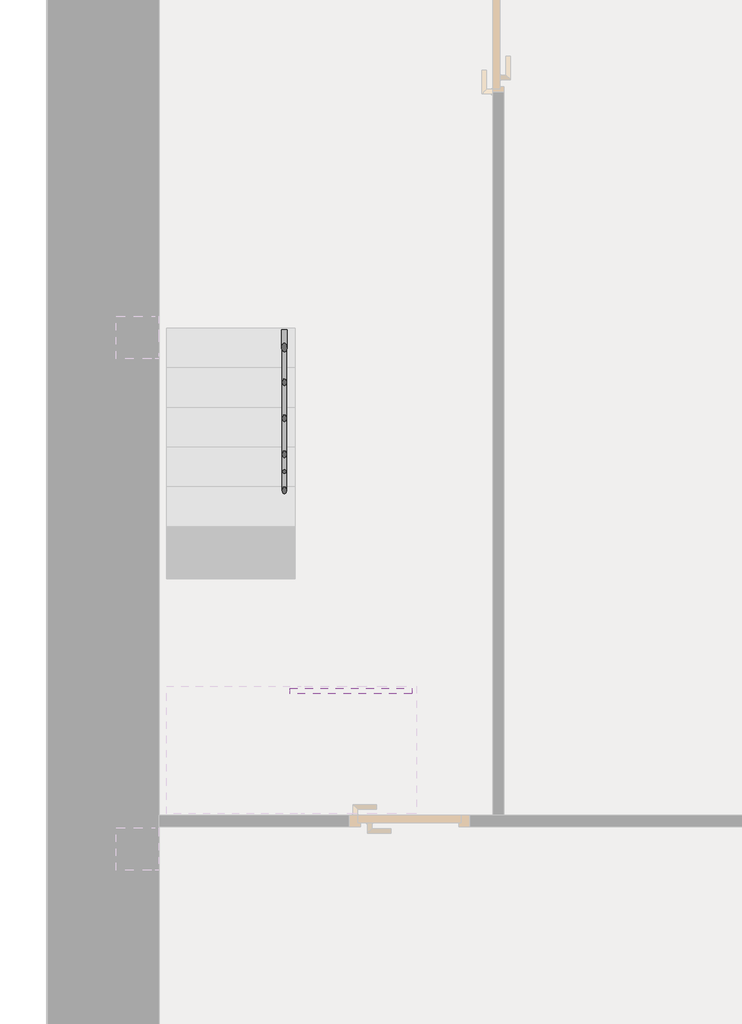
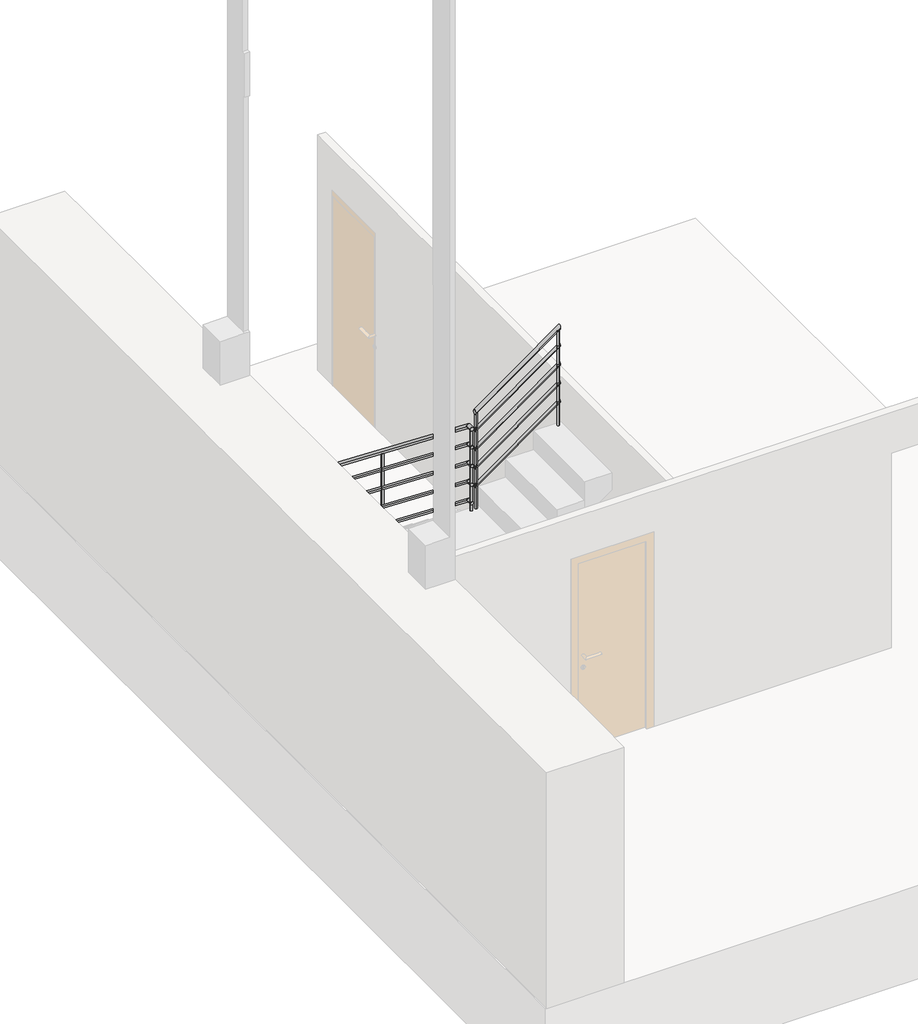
# One storey, part 2 of 2: 2 railings.
"""IFC4 building model written with IfcOpenShell, lengths in millimetres."""

from ifc_helpers import new_model, si_unit, point, frame, frame_2d, origin, place, context, project, spatial, circle_curve, ellipse_curve, trimmed, segment, composite_curve, outline, extrude, element, save
from ifc_brep_helpers import plane_surface, cylinder_surface, advanced_brep

model = new_model("IFC4")

# Units and contexts
model_context = context("Model", 3, world=origin())
ifc_project = project(units=[si_unit("LENGTHUNIT", "METRE", prefix="MILLI")], contexts=[model_context])

# Site, building, storey
site = spatial("IfcSite", under=ifc_project)
building = spatial("IfcBuilding", under=site)
storey = spatial("IfcBuildingStorey", under=building, Name="SÓTANO", Elevation=1000.0)

# Railings
placement = place(None, origin())
element("IfcRailing", 1, ObjectType="Tubería 900 mm", at=placement, inside=storey, context=model_context, shape_type="SolidModel", body=[
    advanced_brep(
    [(-6041.3125034, -9317.868546, 2104.1407496), (-6001.3125034, -9317.868546, 2104.1407496), (-6041.3125034, -11829.7918828, 4080.0), (-6001.3125034, -11829.7918828, 4080.0), (-6041.3125034, -11887.0337685, 4080.0), (-6001.3125034, -11887.0337685, 4080.0)],
    [
        (0, 1, ellipse_curve(frame((-6021.3125034, -9317.868546, 2104.1407496), z_axis=(0.0, 1.0, 0.0), x_axis=(0.0, 0.0, -1.0)), 25.4458425, 20.0)),
        (1, 0, ellipse_curve(frame((-6021.3125034, -9317.868546, 2104.1407496), z_axis=(0.0, 1.0, 0.0), x_axis=(0.0, 0.0, -1.0)), 25.4458425, 20.0)),
        (0, 2),
        (2, 3, ellipse_curve(frame((-6021.3125034, -11829.7918828, 4080.0), z_axis=(0.0, 0.9449822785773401, -0.32712152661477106), x_axis=(0.0, -0.32712152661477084, -0.9449822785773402)), 21.1644181, 20.0)),
        (3, 1),
        (3, 2, ellipse_curve(frame((-6021.3125034, -11829.7918828, 4080.0), z_axis=(0.0, 0.9449822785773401, -0.32712152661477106), x_axis=(0.0, -0.32712152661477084, -0.9449822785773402)), 21.1644181, 20.0)),
        (4, 5, circle_curve(frame((-6021.3125034, -11887.0337685, 4080.0), z_axis=(0.0, -1.0, 0.0), x_axis=(1.0, 0.0, 0.0)), 20.0)),
        (5, 4, circle_curve(frame((-6021.3125034, -11887.0337685, 4080.0), z_axis=(0.0, -1.0, 0.0), x_axis=(1.0, 0.0, 0.0)), 20.0)),
        (2, 4),
        (5, 3),
    ],
    [
        plane_surface(frame((-6021.3125034, -9317.868546, 2129.5865922), z_axis=(0.0, 1.0, 0.0), x_axis=(0.0, 0.0, -1.0))),
        cylinder_surface(frame((-6021.3125034, -9330.2335079, 2113.8669319), z_axis=(0.0, 0.7859830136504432, -0.6182480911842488), x_axis=(1.0, 0.0, 0.0)), 20.0),
        plane_surface(frame((-6021.3125034, -11887.0337685, 4100.0), z_axis=(0.0, -1.0, 0.0), x_axis=(0.0, 0.0, -1.0))),
        cylinder_surface(frame((-6021.3125034, -11822.868546, 4080.0), z_axis=(0.0, 1.0, 0.0), x_axis=(1.0, 0.0, 0.0)), 20.0),
    ],
    [
        (0, [[1, 2]]),
        (1, [[-1, 3, 4, 5]]),
        (1, [[-2, -5, 6, -3]]),
        (2, [[7, 8]]),
        (3, [[-4, 9, -8, 10]]),
        (3, [[-6, -10, -7, -9]]),
    ],
),
    advanced_brep(
    [(-6006.3125034, -9317.868546, 1910.5022103), (-6036.3125034, -9317.868546, 1910.5022103), (-6006.3125034, -11828.0610486, 3885.0), (-6036.3125034, -11828.0610486, 3885.0), (-6006.3125034, -11887.0337685, 3885.0), (-6036.3125034, -11887.0337685, 3885.0)],
    [
        (0, 1, ellipse_curve(frame((-6021.3125034, -9317.868546, 1910.5022103), z_axis=(0.0, 1.0, 0.0), x_axis=(0.0, 0.0, -1.0)), 19.0843819, 15.0)),
        (1, 0, ellipse_curve(frame((-6021.3125034, -9317.868546, 1910.5022103), z_axis=(0.0, 1.0, 0.0), x_axis=(0.0, 0.0, -1.0)), 19.0843819, 15.0)),
        (0, 2),
        (2, 3, ellipse_curve(frame((-6021.3125034, -11828.0610486, 3885.0), z_axis=(0.0, 0.9449822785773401, -0.32712152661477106), x_axis=(0.0, -0.32712152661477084, -0.9449822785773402)), 15.8733135, 15.0)),
        (3, 1),
        (3, 2, ellipse_curve(frame((-6021.3125034, -11828.0610486, 3885.0), z_axis=(0.0, 0.9449822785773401, -0.32712152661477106), x_axis=(0.0, -0.32712152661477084, -0.9449822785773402)), 15.8733135, 15.0)),
        (4, 5, circle_curve(frame((-6021.3125034, -11887.0337685, 3885.0), z_axis=(0.0, -1.0, 0.0), x_axis=(-1.0, 0.0, 0.0)), 15.0)),
        (5, 4, circle_curve(frame((-6021.3125034, -11887.0337685, 3885.0), z_axis=(0.0, -1.0, 0.0), x_axis=(-1.0, 0.0, 0.0)), 15.0)),
        (2, 4),
        (5, 3),
    ],
    [
        plane_surface(frame((-6021.3125034, -9317.868546, 1929.5865922), z_axis=(0.0, 1.0, 0.0), x_axis=(0.0, 0.0, -1.0))),
        cylinder_surface(frame((-6021.3125034, -9327.1422674, 1917.796847), z_axis=(0.0, 0.7859830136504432, -0.6182480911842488), x_axis=(-1.0, 0.0, 0.0)), 15.0),
        plane_surface(frame((-6021.3125034, -11887.0337685, 3900.0), z_axis=(0.0, -1.0, 0.0), x_axis=(0.0, 0.0, -1.0))),
        cylinder_surface(frame((-6021.3125034, -11822.868546, 3885.0), z_axis=(0.0, 1.0, 0.0), x_axis=(-1.0, 0.0, 0.0)), 15.0),
    ],
    [
        (0, [[1, 2]]),
        (1, [[-1, 3, 4, 5]]),
        (1, [[-2, -5, 6, -3]]),
        (2, [[7, 8]]),
        (3, [[-4, 9, -8, 10]]),
        (3, [[-6, -10, -7, -9]]),
    ],
),
    advanced_brep(
    [(-6006.3125034, -9317.868546, 1710.5022103), (-6036.3125034, -9317.868546, 1710.5022103), (-6006.3125034, -11828.0610486, 3685.0), (-6036.3125034, -11828.0610486, 3685.0), (-6006.3125034, -11887.0337685, 3685.0), (-6036.3125034, -11887.0337685, 3685.0)],
    [
        (0, 1, ellipse_curve(frame((-6021.3125034, -9317.868546, 1710.5022103), z_axis=(0.0, 1.0, 0.0), x_axis=(0.0, 0.0, -1.0)), 19.0843819, 15.0)),
        (1, 0, ellipse_curve(frame((-6021.3125034, -9317.868546, 1710.5022103), z_axis=(0.0, 1.0, 0.0), x_axis=(0.0, 0.0, -1.0)), 19.0843819, 15.0)),
        (0, 2),
        (2, 3, ellipse_curve(frame((-6021.3125034, -11828.0610486, 3685.0), z_axis=(0.0, 0.9449822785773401, -0.32712152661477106), x_axis=(0.0, -0.32712152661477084, -0.9449822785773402)), 15.8733135, 15.0)),
        (3, 1),
        (3, 2, ellipse_curve(frame((-6021.3125034, -11828.0610486, 3685.0), z_axis=(0.0, 0.9449822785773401, -0.32712152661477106), x_axis=(0.0, -0.32712152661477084, -0.9449822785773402)), 15.8733135, 15.0)),
        (4, 5, circle_curve(frame((-6021.3125034, -11887.0337685, 3685.0), z_axis=(0.0, -1.0, 0.0), x_axis=(-1.0, 0.0, 0.0)), 15.0)),
        (5, 4, circle_curve(frame((-6021.3125034, -11887.0337685, 3685.0), z_axis=(0.0, -1.0, 0.0), x_axis=(-1.0, 0.0, 0.0)), 15.0)),
        (2, 4),
        (5, 3),
    ],
    [
        plane_surface(frame((-6021.3125034, -9317.868546, 1729.5865922), z_axis=(0.0, 1.0, 0.0), x_axis=(0.0, 0.0, -1.0))),
        cylinder_surface(frame((-6021.3125034, -9327.1422674, 1717.796847), z_axis=(0.0, 0.7859830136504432, -0.6182480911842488), x_axis=(-1.0, 0.0, 0.0)), 15.0),
        plane_surface(frame((-6021.3125034, -11887.0337685, 3700.0), z_axis=(0.0, -1.0, 0.0), x_axis=(0.0, 0.0, -1.0))),
        cylinder_surface(frame((-6021.3125034, -11822.868546, 3685.0), z_axis=(0.0, 1.0, 0.0), x_axis=(-1.0, 0.0, 0.0)), 15.0),
    ],
    [
        (0, [[1, 2]]),
        (1, [[-1, 3, 4, 5]]),
        (1, [[-2, -5, 6, -3]]),
        (2, [[7, 8]]),
        (3, [[-4, 9, -8, 10]]),
        (3, [[-6, -10, -7, -9]]),
    ],
),
    advanced_brep(
    [(-6006.3125034, -9317.868546, 1510.5022103), (-6036.3125034, -9317.868546, 1510.5022103), (-6006.3125034, -11828.0610486, 3485.0), (-6036.3125034, -11828.0610486, 3485.0), (-6006.3125034, -11887.0337685, 3485.0), (-6036.3125034, -11887.0337685, 3485.0)],
    [
        (0, 1, ellipse_curve(frame((-6021.3125034, -9317.868546, 1510.5022103), z_axis=(0.0, 1.0, 0.0), x_axis=(0.0, 0.0, -1.0)), 19.0843819, 15.0)),
        (1, 0, ellipse_curve(frame((-6021.3125034, -9317.868546, 1510.5022103), z_axis=(0.0, 1.0, 0.0), x_axis=(0.0, 0.0, -1.0)), 19.0843819, 15.0)),
        (0, 2),
        (2, 3, ellipse_curve(frame((-6021.3125034, -11828.0610486, 3485.0), z_axis=(0.0, 0.9449822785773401, -0.32712152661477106), x_axis=(0.0, -0.32712152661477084, -0.9449822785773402)), 15.8733135, 15.0)),
        (3, 1),
        (3, 2, ellipse_curve(frame((-6021.3125034, -11828.0610486, 3485.0), z_axis=(0.0, 0.9449822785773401, -0.32712152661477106), x_axis=(0.0, -0.32712152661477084, -0.9449822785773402)), 15.8733135, 15.0)),
        (4, 5, circle_curve(frame((-6021.3125034, -11887.0337685, 3485.0), z_axis=(0.0, -1.0, 0.0), x_axis=(-1.0, 0.0, 0.0)), 15.0)),
        (5, 4, circle_curve(frame((-6021.3125034, -11887.0337685, 3485.0), z_axis=(0.0, -1.0, 0.0), x_axis=(-1.0, 0.0, 0.0)), 15.0)),
        (2, 4),
        (5, 3),
    ],
    [
        plane_surface(frame((-6021.3125034, -9317.868546, 1529.5865922), z_axis=(0.0, 1.0, 0.0), x_axis=(0.0, 0.0, -1.0))),
        cylinder_surface(frame((-6021.3125034, -9327.1422674, 1517.796847), z_axis=(0.0, 0.7859830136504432, -0.6182480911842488), x_axis=(-1.0, 0.0, 0.0)), 15.0),
        plane_surface(frame((-6021.3125034, -11887.0337685, 3500.0), z_axis=(0.0, -1.0, 0.0), x_axis=(0.0, 0.0, -1.0))),
        cylinder_surface(frame((-6021.3125034, -11822.868546, 3485.0), z_axis=(0.0, 1.0, 0.0), x_axis=(-1.0, 0.0, 0.0)), 15.0),
    ],
    [
        (0, [[1, 2]]),
        (1, [[-1, 3, 4, 5]]),
        (1, [[-2, -5, 6, -3]]),
        (2, [[7, 8]]),
        (3, [[-4, 9, -8, 10]]),
        (3, [[-6, -10, -7, -9]]),
    ],
),
    advanced_brep(
    [(-6006.3125034, -9317.868546, 1310.5022103), (-6036.3125034, -9317.868546, 1310.5022103), (-6006.3125034, -11828.0610486, 3285.0), (-6036.3125034, -11828.0610486, 3285.0), (-6006.3125034, -11887.0337685, 3285.0), (-6036.3125034, -11887.0337685, 3285.0)],
    [
        (0, 1, ellipse_curve(frame((-6021.3125034, -9317.868546, 1310.5022103), z_axis=(0.0, 1.0, 0.0), x_axis=(0.0, 0.0, -1.0)), 19.0843819, 15.0)),
        (1, 0, ellipse_curve(frame((-6021.3125034, -9317.868546, 1310.5022103), z_axis=(0.0, 1.0, 0.0), x_axis=(0.0, 0.0, -1.0)), 19.0843819, 15.0)),
        (0, 2),
        (2, 3, ellipse_curve(frame((-6021.3125034, -11828.0610486, 3285.0), z_axis=(0.0, 0.9449822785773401, -0.32712152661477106), x_axis=(0.0, -0.32712152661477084, -0.9449822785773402)), 15.8733135, 15.0)),
        (3, 1),
        (3, 2, ellipse_curve(frame((-6021.3125034, -11828.0610486, 3285.0), z_axis=(0.0, 0.9449822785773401, -0.32712152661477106), x_axis=(0.0, -0.32712152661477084, -0.9449822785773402)), 15.8733135, 15.0)),
        (4, 5, circle_curve(frame((-6021.3125034, -11887.0337685, 3285.0), z_axis=(0.0, -1.0, 0.0), x_axis=(-1.0, 0.0, 0.0)), 15.0)),
        (5, 4, circle_curve(frame((-6021.3125034, -11887.0337685, 3285.0), z_axis=(0.0, -1.0, 0.0), x_axis=(-1.0, 0.0, 0.0)), 15.0)),
        (2, 4),
        (5, 3),
    ],
    [
        plane_surface(frame((-6021.3125034, -9317.868546, 1329.5865922), z_axis=(0.0, 1.0, 0.0), x_axis=(0.0, 0.0, -1.0))),
        cylinder_surface(frame((-6021.3125034, -9327.1422674, 1317.796847), z_axis=(0.0, 0.7859830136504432, -0.6182480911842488), x_axis=(-1.0, 0.0, 0.0)), 15.0),
        plane_surface(frame((-6021.3125034, -11887.0337685, 3300.0), z_axis=(0.0, -1.0, 0.0), x_axis=(0.0, 0.0, -1.0))),
        cylinder_surface(frame((-6021.3125034, -11822.868546, 3285.0), z_axis=(0.0, 1.0, 0.0), x_axis=(-1.0, 0.0, 0.0)), 15.0),
    ],
    [
        (0, [[1, 2]]),
        (1, [[-1, 3, 4, 5]]),
        (1, [[-2, -5, 6, -3]]),
        (2, [[7, 8]]),
        (3, [[-4, 9, -8, 10]]),
        (3, [[-6, -10, -7, -9]]),
    ],
),
    advanced_brep(
    [(-6033.8125034, -11317.868546, 3651.8792647), (-6033.8125034, -11317.868546, 2760.0), (-6008.8125034, -11317.868546, 2760.0), (-6008.8125034, -11317.868546, 3651.8792647)],
    [
        (0, 1),
        (1, 2, circle_curve(frame((-6021.3125034, -11317.868546, 2760.0), z_axis=(0.0, 0.0, 1.0), x_axis=(1.0, 0.0, 0.0)), 12.5)),
        (2, 3),
        (3, 0, ellipse_curve(frame((-6021.3125034, -11317.868546, 3651.8792647), z_axis=(0.0, -0.6182480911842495, -0.7859830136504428), x_axis=(0.0, -0.7859830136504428, 0.6182480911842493)), 15.9036516, 12.5)),
        (0, 3, ellipse_curve(frame((-6021.3125034, -11317.868546, 3651.8792647), z_axis=(0.0, -0.6182480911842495, -0.7859830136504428), x_axis=(0.0, -0.7859830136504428, 0.6182480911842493)), 15.9036516, 12.5)),
        (2, 1, circle_curve(frame((-6021.3125034, -11317.868546, 2760.0), z_axis=(0.0, 0.0, 1.0), x_axis=(1.0, 0.0, 0.0)), 12.5)),
    ],
    [
        cylinder_surface(frame((-6021.3125034, -11317.868546, 2660.0), z_axis=(0.0, 0.0, 1.0), x_axis=(1.0, 0.0, 0.0)), 12.5),
        plane_surface(frame((-5996.3125034, -11342.868546, 3671.5440691), z_axis=(0.0, 0.6182480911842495, 0.7859830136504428), x_axis=(-1.0, 0.0, 0.0))),
        plane_surface(frame((-5996.3125034, -11292.868546, 2760.0), z_axis=(0.0, 0.0, -1.0), x_axis=(-1.0, 0.0, 0.0))),
    ],
    [
        (0, [[1, 2, 3, 4]]),
        (0, [[-1, 5, -3, 6]]),
        (1, [[-4, -5]]),
        (2, [[-2, -6]]),
    ],
),
    advanced_brep(
    [(-6033.8125034, -10317.868546, 2865.2870859), (-6033.8125034, -10317.868546, 1880.0), (-6008.8125034, -10317.868546, 1880.0), (-6008.8125034, -10317.868546, 2865.2870859)],
    [
        (0, 1),
        (1, 2, circle_curve(frame((-6021.3125034, -10317.868546, 1880.0), z_axis=(0.0, 0.0, 1.0), x_axis=(1.0, 0.0, 0.0)), 12.5)),
        (2, 3),
        (3, 0, ellipse_curve(frame((-6021.3125034, -10317.868546, 2865.2870859), z_axis=(0.0, -0.6182480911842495, -0.7859830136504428), x_axis=(0.0, -0.7859830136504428, 0.6182480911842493)), 15.9036516, 12.5)),
        (0, 3, ellipse_curve(frame((-6021.3125034, -10317.868546, 2865.2870859), z_axis=(0.0, -0.6182480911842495, -0.7859830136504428), x_axis=(0.0, -0.7859830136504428, 0.6182480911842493)), 15.9036516, 12.5)),
        (2, 1, circle_curve(frame((-6021.3125034, -10317.868546, 1880.0), z_axis=(0.0, 0.0, 1.0), x_axis=(1.0, 0.0, 0.0)), 12.5)),
    ],
    [
        cylinder_surface(frame((-6021.3125034, -10317.868546, 1780.0), z_axis=(0.0, 0.0, 1.0), x_axis=(1.0, 0.0, 0.0)), 12.5),
        plane_surface(frame((-5996.3125034, -10342.868546, 2884.9518904), z_axis=(0.0, 0.6182480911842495, 0.7859830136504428), x_axis=(-1.0, 0.0, 0.0))),
        plane_surface(frame((-5996.3125034, -10292.868546, 1880.0), z_axis=(0.0, 0.0, -1.0), x_axis=(-1.0, 0.0, 0.0))),
    ],
    [
        (0, [[1, 2, 3, 4]]),
        (0, [[-1, 5, -3, 6]]),
        (1, [[-4, -5]]),
        (2, [[-2, -6]]),
    ],
),
    extrude(outline(composite_curve([segment(trimmed(circle_curve(frame_2d((-6021.3125034, -11874.5337685)), 12.5), [point((-6008.8125034, -11874.5337685))], [point((-6033.8125034, -11874.5337685))], False, "CARTESIAN"), True, "CONTINUOUS"), segment(trimmed(circle_curve(frame_2d((-6021.3125034, -11874.5337685)), 12.5), [point((-6033.8125034, -11874.5337685))], [point((-6008.8125034, -11874.5337685))], False, "CARTESIAN"), True, "CONTINUOUS")], self_intersect=False)), frame((0.0, 0.0, 3200.0), z_axis=(0.0, 0.0, 1.0), x_axis=(1.0, 0.0, 0.0)), (0.0, 0.0, 1.0), 860.0),
    advanced_brep(
    [(-6033.8125034, -9330.368546, 2088.5273093), (-6033.8125034, -9330.368546, 1220.0), (-6008.8125034, -9330.368546, 1220.0), (-6008.8125034, -9330.368546, 2088.5273093)],
    [
        (0, 1),
        (1, 2, circle_curve(frame((-6021.3125034, -9330.368546, 1220.0), z_axis=(0.0, 0.0, 1.0), x_axis=(1.0, 0.0, 0.0)), 12.5)),
        (2, 3),
        (3, 0, ellipse_curve(frame((-6021.3125034, -9330.368546, 2088.5273093), z_axis=(0.0, -0.6182480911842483, -0.7859830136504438), x_axis=(0.0, -0.7859830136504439, 0.618248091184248)), 15.9036516, 12.5)),
        (0, 3, ellipse_curve(frame((-6021.3125034, -9330.368546, 2088.5273093), z_axis=(0.0, -0.6182480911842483, -0.7859830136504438), x_axis=(0.0, -0.7859830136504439, 0.618248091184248)), 15.9036516, 12.5)),
        (2, 1, circle_curve(frame((-6021.3125034, -9330.368546, 1220.0), z_axis=(0.0, 0.0, 1.0), x_axis=(1.0, 0.0, 0.0)), 12.5)),
    ],
    [
        cylinder_surface(frame((-6021.3125034, -9330.368546, 1120.0), z_axis=(0.0, 0.0, 1.0), x_axis=(1.0, 0.0, 0.0)), 12.5),
        plane_surface(frame((-5996.3125034, -9355.368546, 2108.1921138), z_axis=(0.0, 0.6182480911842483, 0.7859830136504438), x_axis=(-1.0, 0.0, 0.0))),
        plane_surface(frame((-5996.3125034, -9305.368546, 1220.0), z_axis=(0.0, 0.0, -1.0), x_axis=(-1.0, 0.0, 0.0))),
    ],
    [
        (0, [[1, 2, 3, 4]]),
        (0, [[-1, 5, -3, 6]]),
        (1, [[-4, -5]]),
        (2, [[-2, -6]]),
    ],
),
])
element("IfcRailing", 2, ObjectType="Tubería 900 mm", at=placement, inside=storey, context=model_context, shape_type="AdvancedBrep", body=[
    advanced_brep(
    [(-5981.389953, -11887.4071265, 4237.5991103), (-5981.389953, -11847.4071265, 4237.5991103), (-5121.389953, -11887.4071265, 4851.8848246), (-5121.389953, -11847.4071265, 4851.8848246)],
    [
        (0, 1, ellipse_curve(frame((-5981.389953, -11867.4071265, 4237.5991103), z_axis=(-1.0, 0.0, 0.0), x_axis=(0.0, 0.0, -1.0)), 24.5780722, 20.0)),
        (1, 0, ellipse_curve(frame((-5981.389953, -11867.4071265, 4237.5991103), z_axis=(-1.0, 0.0, 0.0), x_axis=(0.0, 0.0, -1.0)), 24.5780722, 20.0)),
        (2, 3, ellipse_curve(frame((-5121.389953, -11867.4071265, 4851.8848246), z_axis=(1.0, 0.0, 0.0), x_axis=(0.0, 0.0, -1.0)), 24.5780722, 20.0)),
        (3, 2, ellipse_curve(frame((-5121.389953, -11867.4071265, 4851.8848246), z_axis=(1.0, 0.0, 0.0), x_axis=(0.0, 0.0, -1.0)), 24.5780722, 20.0)),
        (0, 2),
        (3, 1),
    ],
    [
        plane_surface(frame((-5981.389953, -11867.4071265, 4262.1771825), z_axis=(-1.0, 0.0, 0.0), x_axis=(0.0, 1.0, 0.0))),
        plane_surface(frame((-5121.389953, -11867.4071265, 4876.4628968), z_axis=(1.0, 0.0, 0.0), x_axis=(0.0, 1.0, 0.0))),
        cylinder_surface(frame((-5969.7651891, -11867.4071265, 4245.9025131), z_axis=(-0.8137334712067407, 0.0, -0.5812381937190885), x_axis=(0.0, 1.0, 0.0)), 20.0),
    ],
    [
        (0, [[1, 2]]),
        (1, [[3, 4]]),
        (2, [[-1, 5, -4, 6]]),
        (2, [[-2, -6, -3, -5]]),
    ],
),
    advanced_brep(
    [(-5981.389953, -11852.4071265, 4043.7436284), (-5981.389953, -11882.4071265, 4043.7436284), (-5121.389953, -11852.4071265, 4658.0293426), (-5121.389953, -11882.4071265, 4658.0293426)],
    [
        (0, 1, ellipse_curve(frame((-5981.389953, -11867.4071265, 4043.7436284), z_axis=(-1.0, 0.0, 0.0), x_axis=(0.0, 0.0, -1.0)), 18.4335541, 15.0)),
        (1, 0, ellipse_curve(frame((-5981.389953, -11867.4071265, 4043.7436284), z_axis=(-1.0, 0.0, 0.0), x_axis=(0.0, 0.0, -1.0)), 18.4335541, 15.0)),
        (2, 3, ellipse_curve(frame((-5121.389953, -11867.4071265, 4658.0293426), z_axis=(1.0, 0.0, 0.0), x_axis=(0.0, 0.0, -1.0)), 18.4335541, 15.0)),
        (3, 2, ellipse_curve(frame((-5121.389953, -11867.4071265, 4658.0293426), z_axis=(1.0, 0.0, 0.0), x_axis=(0.0, 0.0, -1.0)), 18.4335541, 15.0)),
        (0, 2),
        (3, 1),
    ],
    [
        plane_surface(frame((-5981.389953, -11867.4071265, 4062.1771825), z_axis=(-1.0, 0.0, 0.0), x_axis=(0.0, 1.0, 0.0))),
        plane_surface(frame((-5121.389953, -11867.4071265, 4676.4628968), z_axis=(1.0, 0.0, 0.0), x_axis=(0.0, 1.0, 0.0))),
        cylinder_surface(frame((-5972.6713801, -11867.4071265, 4049.9711804), z_axis=(-0.8137334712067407, 0.0, -0.5812381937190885), x_axis=(0.0, -1.0, 0.0)), 15.0),
    ],
    [
        (0, [[1, 2]]),
        (1, [[3, 4]]),
        (2, [[-1, 5, -4, 6]]),
        (2, [[-2, -6, -3, -5]]),
    ],
),
    advanced_brep(
    [(-5981.389953, -11852.4071265, 3843.7436284), (-5981.389953, -11882.4071265, 3843.7436284), (-5121.389953, -11852.4071265, 4458.0293426), (-5121.389953, -11882.4071265, 4458.0293426)],
    [
        (0, 1, ellipse_curve(frame((-5981.389953, -11867.4071265, 3843.7436284), z_axis=(-1.0, 0.0, 0.0), x_axis=(0.0, 0.0, -1.0)), 18.4335541, 15.0)),
        (1, 0, ellipse_curve(frame((-5981.389953, -11867.4071265, 3843.7436284), z_axis=(-1.0, 0.0, 0.0), x_axis=(0.0, 0.0, -1.0)), 18.4335541, 15.0)),
        (2, 3, ellipse_curve(frame((-5121.389953, -11867.4071265, 4458.0293426), z_axis=(1.0, 0.0, 0.0), x_axis=(0.0, 0.0, -1.0)), 18.4335541, 15.0)),
        (3, 2, ellipse_curve(frame((-5121.389953, -11867.4071265, 4458.0293426), z_axis=(1.0, 0.0, 0.0), x_axis=(0.0, 0.0, -1.0)), 18.4335541, 15.0)),
        (0, 2),
        (3, 1),
    ],
    [
        plane_surface(frame((-5981.389953, -11867.4071265, 3862.1771825), z_axis=(-1.0, 0.0, 0.0), x_axis=(0.0, 1.0, 0.0))),
        plane_surface(frame((-5121.389953, -11867.4071265, 4476.4628968), z_axis=(1.0, 0.0, 0.0), x_axis=(0.0, 1.0, 0.0))),
        cylinder_surface(frame((-5972.6713801, -11867.4071265, 3849.9711804), z_axis=(-0.8137334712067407, 0.0, -0.5812381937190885), x_axis=(0.0, -1.0, 0.0)), 15.0),
    ],
    [
        (0, [[1, 2]]),
        (1, [[3, 4]]),
        (2, [[-1, 5, -4, 6]]),
        (2, [[-2, -6, -3, -5]]),
    ],
),
    advanced_brep(
    [(-5981.389953, -11852.4071265, 3643.7436284), (-5981.389953, -11882.4071265, 3643.7436284), (-5121.389953, -11852.4071265, 4258.0293426), (-5121.389953, -11882.4071265, 4258.0293426)],
    [
        (0, 1, ellipse_curve(frame((-5981.389953, -11867.4071265, 3643.7436284), z_axis=(-1.0, 0.0, 0.0), x_axis=(0.0, 0.0, -1.0)), 18.4335541, 15.0)),
        (1, 0, ellipse_curve(frame((-5981.389953, -11867.4071265, 3643.7436284), z_axis=(-1.0, 0.0, 0.0), x_axis=(0.0, 0.0, -1.0)), 18.4335541, 15.0)),
        (2, 3, ellipse_curve(frame((-5121.389953, -11867.4071265, 4258.0293426), z_axis=(1.0, 0.0, 0.0), x_axis=(0.0, 0.0, -1.0)), 18.4335541, 15.0)),
        (3, 2, ellipse_curve(frame((-5121.389953, -11867.4071265, 4258.0293426), z_axis=(1.0, 0.0, 0.0), x_axis=(0.0, 0.0, -1.0)), 18.4335541, 15.0)),
        (0, 2),
        (3, 1),
    ],
    [
        plane_surface(frame((-5981.389953, -11867.4071265, 3662.1771825), z_axis=(-1.0, 0.0, 0.0), x_axis=(0.0, 1.0, 0.0))),
        plane_surface(frame((-5121.389953, -11867.4071265, 4276.4628968), z_axis=(1.0, 0.0, 0.0), x_axis=(0.0, 1.0, 0.0))),
        cylinder_surface(frame((-5972.6713801, -11867.4071265, 3649.9711804), z_axis=(-0.8137334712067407, 0.0, -0.5812381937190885), x_axis=(0.0, -1.0, 0.0)), 15.0),
    ],
    [
        (0, [[1, 2]]),
        (1, [[3, 4]]),
        (2, [[-1, 5, -4, 6]]),
        (2, [[-2, -6, -3, -5]]),
    ],
),
    advanced_brep(
    [(-5981.389953, -11852.4071265, 3443.7436284), (-5981.389953, -11882.4071265, 3443.7436284), (-5121.389953, -11852.4071265, 4058.0293426), (-5121.389953, -11882.4071265, 4058.0293426)],
    [
        (0, 1, ellipse_curve(frame((-5981.389953, -11867.4071265, 3443.7436284), z_axis=(-1.0, 0.0, 0.0), x_axis=(0.0, 0.0, -1.0)), 18.4335541, 15.0)),
        (1, 0, ellipse_curve(frame((-5981.389953, -11867.4071265, 3443.7436284), z_axis=(-1.0, 0.0, 0.0), x_axis=(0.0, 0.0, -1.0)), 18.4335541, 15.0)),
        (2, 3, ellipse_curve(frame((-5121.389953, -11867.4071265, 4058.0293426), z_axis=(1.0, 0.0, 0.0), x_axis=(0.0, 0.0, -1.0)), 18.4335541, 15.0)),
        (3, 2, ellipse_curve(frame((-5121.389953, -11867.4071265, 4058.0293426), z_axis=(1.0, 0.0, 0.0), x_axis=(0.0, 0.0, -1.0)), 18.4335541, 15.0)),
        (0, 2),
        (3, 1),
    ],
    [
        plane_surface(frame((-5981.389953, -11867.4071265, 3462.1771825), z_axis=(-1.0, 0.0, 0.0), x_axis=(0.0, 1.0, 0.0))),
        plane_surface(frame((-5121.389953, -11867.4071265, 4076.4628968), z_axis=(1.0, 0.0, 0.0), x_axis=(0.0, 1.0, 0.0))),
        cylinder_surface(frame((-5972.6713801, -11867.4071265, 3449.9711804), z_axis=(-0.8137334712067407, 0.0, -0.5812381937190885), x_axis=(0.0, -1.0, 0.0)), 15.0),
    ],
    [
        (0, [[1, 2]]),
        (1, [[3, 4]]),
        (2, [[-1, 5, -4, 6]]),
        (2, [[-2, -6, -3, -5]]),
    ],
),
    advanced_brep(
    [(-5133.889953, -11879.9071265, 4818.378181), (-5133.889953, -11879.9071265, 3800.0), (-5133.889953, -11854.9071265, 3800.0), (-5133.889953, -11854.9071265, 4818.378181)],
    [
        (0, 1),
        (1, 2, circle_curve(frame((-5133.889953, -11867.4071265, 3800.0), z_axis=(0.0, 0.0, 1.0), x_axis=(0.0, 1.0, 0.0)), 12.5)),
        (2, 3),
        (3, 0, ellipse_curve(frame((-5133.889953, -11867.4071265, 4818.378181), z_axis=(0.5812381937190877, 0.0, -0.8137334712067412), x_axis=(0.8137334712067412, 0.0, 0.5812381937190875)), 15.3612951, 12.5)),
        (0, 3, ellipse_curve(frame((-5133.889953, -11867.4071265, 4818.378181), z_axis=(0.5812381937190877, 0.0, -0.8137334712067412), x_axis=(0.8137334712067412, 0.0, 0.5812381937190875)), 15.3612951, 12.5)),
        (2, 1, circle_curve(frame((-5133.889953, -11867.4071265, 3800.0), z_axis=(0.0, 0.0, 1.0), x_axis=(0.0, 1.0, 0.0)), 12.5)),
    ],
    [
        cylinder_surface(frame((-5133.889953, -11867.4071265, 3700.0), z_axis=(0.0, 0.0, 1.0), x_axis=(0.0, 1.0, 0.0)), 12.5),
        plane_surface(frame((-5108.889953, -11842.4071265, 4836.2353238), z_axis=(-0.5812381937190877, 0.0, 0.8137334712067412), x_axis=(0.0, -1.0, 0.0))),
        plane_surface(frame((-5158.889953, -11842.4071265, 3800.0), z_axis=(0.0, 0.0, -1.0), x_axis=(0.0, -1.0, 0.0))),
    ],
    [
        (0, [[1, 2, 3, 4]]),
        (0, [[-1, 5, -3, 6]]),
        (1, [[-4, -5]]),
        (2, [[-2, -6]]),
    ],
),
    advanced_brep(
    [(-5968.889953, -11879.9071265, 4221.9496095), (-5968.889953, -11879.9071265, 3200.0), (-5968.889953, -11854.9071265, 3200.0), (-5968.889953, -11854.9071265, 4221.9496095)],
    [
        (0, 1),
        (1, 2, circle_curve(frame((-5968.889953, -11867.4071265, 3200.0), z_axis=(0.0, 0.0, 1.0), x_axis=(0.0, 1.0, 0.0)), 12.5)),
        (2, 3),
        (3, 0, ellipse_curve(frame((-5968.889953, -11867.4071265, 4221.9496095), z_axis=(0.5812381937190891, 0.0, -0.8137334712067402), x_axis=(0.8137334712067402, 0.0, 0.5812381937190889)), 15.3612951, 12.5)),
        (0, 3, ellipse_curve(frame((-5968.889953, -11867.4071265, 4221.9496095), z_axis=(0.5812381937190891, 0.0, -0.8137334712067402), x_axis=(0.8137334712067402, 0.0, 0.5812381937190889)), 15.3612951, 12.5)),
        (2, 1, circle_curve(frame((-5968.889953, -11867.4071265, 3200.0), z_axis=(0.0, 0.0, 1.0), x_axis=(0.0, 1.0, 0.0)), 12.5)),
    ],
    [
        cylinder_surface(frame((-5968.889953, -11867.4071265, 3100.0), z_axis=(0.0, 0.0, 1.0), x_axis=(0.0, 1.0, 0.0)), 12.5),
        plane_surface(frame((-5943.889953, -11842.4071265, 4239.8067524), z_axis=(-0.5812381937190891, 0.0, 0.8137334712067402), x_axis=(0.0, -1.0, 0.0))),
        plane_surface(frame((-5993.889953, -11842.4071265, 3200.0), z_axis=(0.0, 0.0, -1.0), x_axis=(0.0, -1.0, 0.0))),
    ],
    [
        (0, [[1, 2, 3, 4]]),
        (0, [[-1, 5, -3, 6]]),
        (1, [[-4, -5]]),
        (2, [[-2, -6]]),
    ],
),
])

save(model, "model.ifc")
